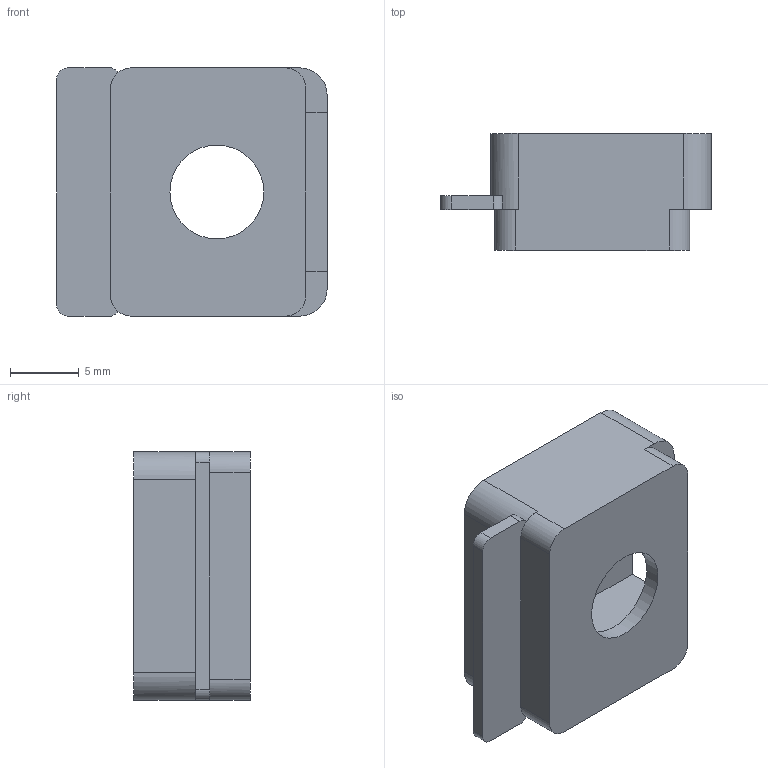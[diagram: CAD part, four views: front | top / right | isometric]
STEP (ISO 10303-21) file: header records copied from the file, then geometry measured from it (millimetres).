
FILE_DESCRIPTION(('Open CASCADE Model'),'2;1');
FILE_NAME('Open CASCADE Shape Model','2026-11-28T16:01:08',('Author'),( 'Open CASCADE'),'Open CASCADE STEP processor 8.0','build123d', 'Unknown');
FILE_SCHEMA(('AUTOMOTIVE_DESIGN { 1 0 10303 214 1 1 1 1 }'));
Length unit declared in the file: millimetre
Products named in the file (2): =>[0:1:1:2]; SOLID
Assembly tree (1 placements, depth 2):
  =>[0:1:1:2]
    SOLID
Bounding box: 19.6 x 8.45 x 18 mm (x, y, z)
Volume: 1408.2 mm3; surface area: 1587.8 mm2
Topology: 1 solids, 1 shells, 63 faces, 167 edges, 108 vertices
Faces by surface type: plane 49, cylinder 14
Full cylindrical faces by diameter (mm): 6.8 x2
Entity records: 4120 total; most frequent: CARTESIAN_POINT 804, DIRECTION 595, LINE 375, VECTOR 375, ORIENTED_EDGE 334, PCURVE 334, DEFINITIONAL_REPRESENTATION 334, EDGE_CURVE 167
